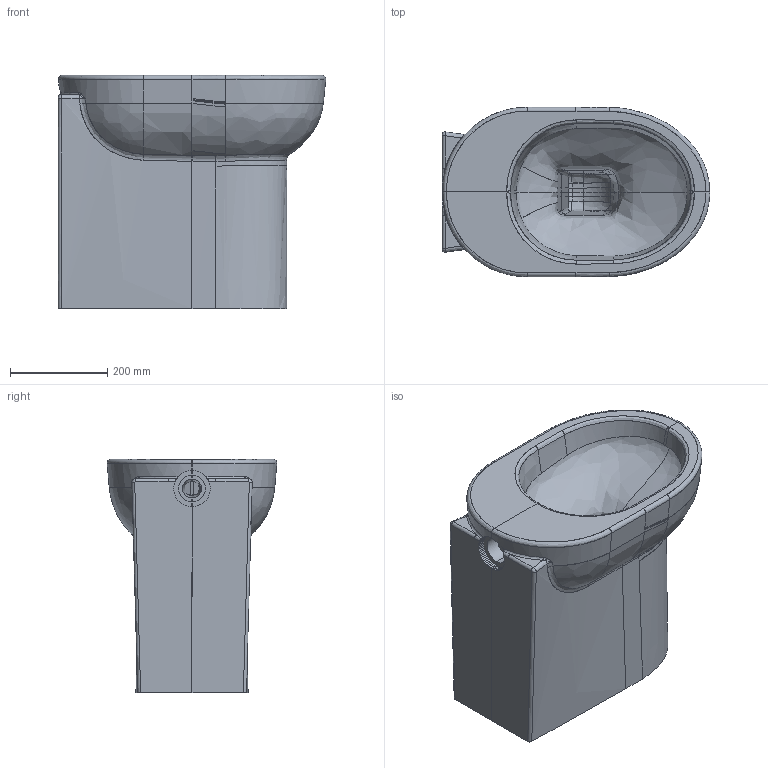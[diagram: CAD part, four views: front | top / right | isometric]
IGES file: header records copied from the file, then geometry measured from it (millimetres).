
Start section: START RECORD GO HERE.
Global section: file name: 5247_3D.igs; native system: DASSAULT SYSTEMES CATIA V5 R19 - www.3ds.com; preprocessor: CATIA Version 5 Release 19 SP 5 ; author: gioge; organization: LAPTOP-G94B6G74; date: 20201109.170833; units: millimetre
Bounding box: 550.3 x 348.79 x 479.83 mm (x, y, z)
Surface area: 1016124.4 mm2 (no closed solid volume)
Topology: 0 solids, 0 shells, 243 faces, 1686 edges, 1675 vertices
Faces by surface type: bspline 155, extrusion 64, plane 20, revolution 4
